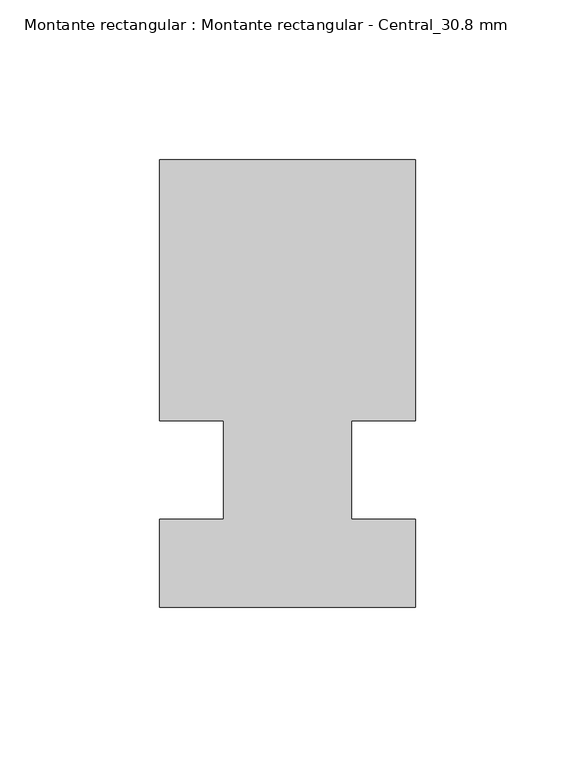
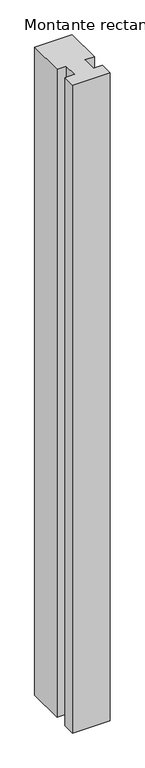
"""IFC4 building model written with IfcOpenShell, lengths in millimetres: member geometry, Montante rectangular : Montante rectangular - Central_30.8 mm."""

from ifc_helpers import new_model, si_unit, frame, origin, place, context, project, spatial, polyline, outline, extrude, source, transform, mapped, element, save


def montante_rectangular_montante_rectangular_central_30_8_mm_c970fd36(model_context):
    return source(origin(), model_context, "Body", "SweptSolid", [
        extrude(outline(polyline([(-40.0, 80.0), (40.0, 80.0), (40.0, -1.6), (20.0, -1.6), (20.0, -32.4), (40.0, -32.4), (40.0, -60.0), (-40.0, -60.0), (-40.0, -32.4), (-20.0, -32.4), (-20.0, -1.6), (-40.0, -1.6), (-40.0, 80.0)])), frame((0.0, 0.0, -1460.0), z_axis=(0.0, 0.0, 1.0), x_axis=(1.0, 0.0, 0.0)), (0.0, 0.0, 1.0), 1460.0),
    ])


if __name__ == "__main__":
    model = new_model("IFC4")
    model_context = context("Model", 3, world=origin())
    ifc_project = project(units=[si_unit("LENGTHUNIT", "METRE", prefix="MILLI")], contexts=[model_context])
    site = spatial("IfcSite", under=ifc_project)
    building = spatial("IfcBuilding", under=site)
    placement = place(None, origin())
    montante_rectangular_montante_rectangular_central_30_8_mm_shape = montante_rectangular_montante_rectangular_central_30_8_mm_c970fd36(model_context)
    element("IfcMember", 1, ObjectType="Montante rectangular : Montante rectangular - Central_30.8 mm", at=placement, inside=building, context=model_context, shape_type="MappedRepresentation", body=[
        mapped(montante_rectangular_montante_rectangular_central_30_8_mm_shape, transform((0.0, 0.0, 0.0), x_axis=(1.0, 0.0, 0.0), y_axis=(0.0, 1.0, 0.0), z_axis=(0.0, 0.0, 1.0))),
    ])
    save(model, "model.ifc")
